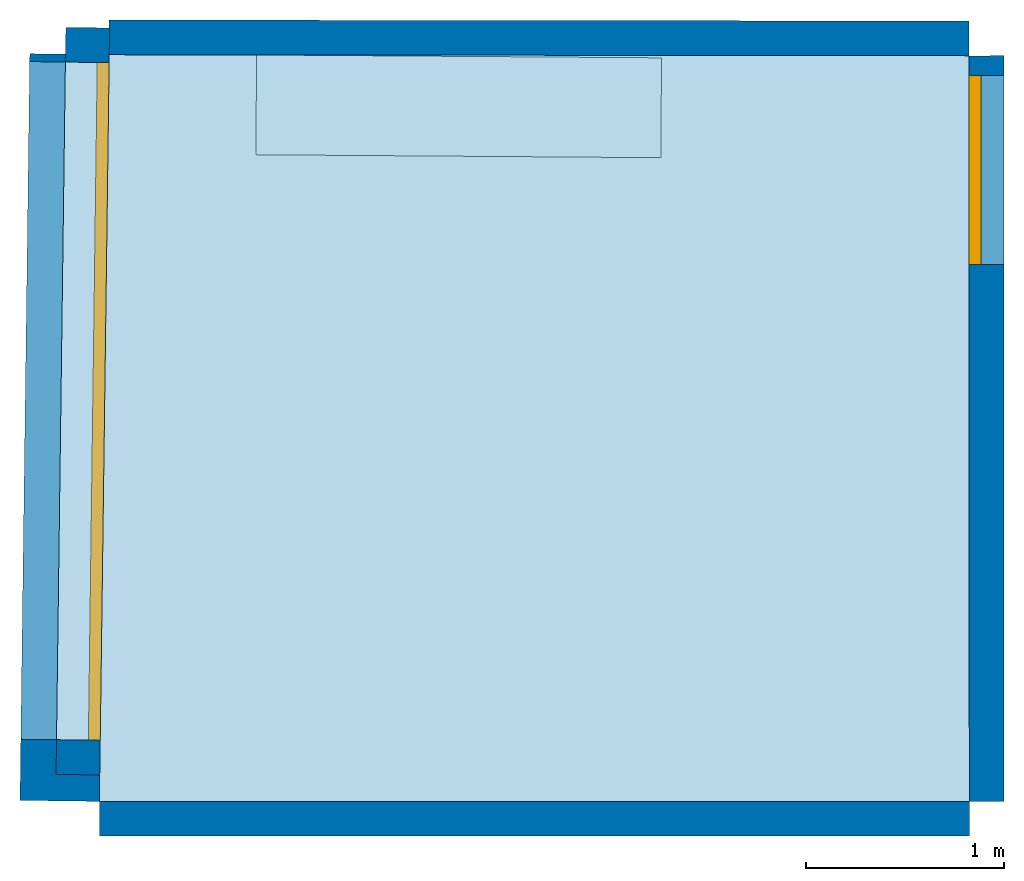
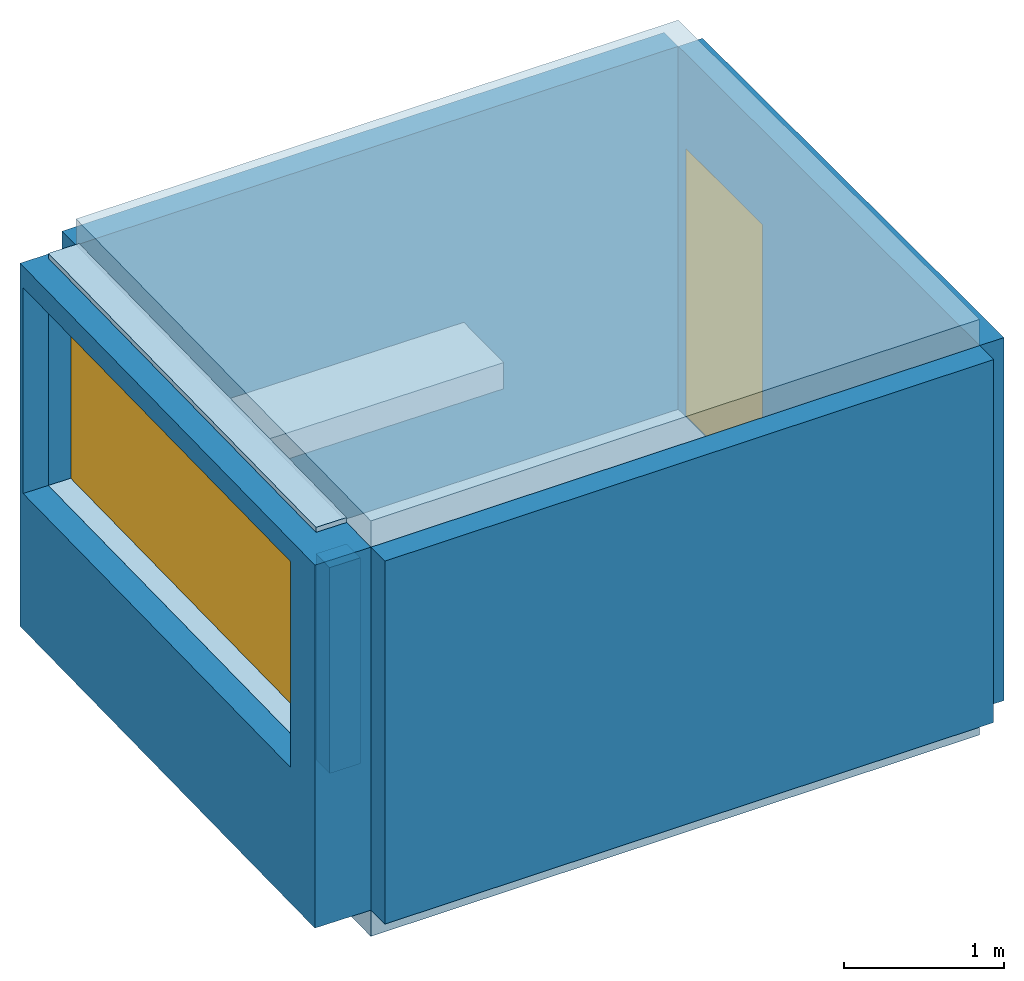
# One storey: 6 walls, 5 slabs, 1 door, 1 window, 2 openings.
"""IFC2X3 building model written with IfcOpenShell, lengths in metres."""

from ifc_helpers import new_model, si_unit, direction, frame, origin_with_axes, place, context, project, spatial, polyline, outline, extrude, element, fill, save


model = new_model("IFC2X3")

# Units and contexts
model_context = context("Model", 3, precision=1e-05, world=origin_with_axes(), true_north=direction((1.0, 0.0, 0.0)))
ifc_project = project(units=[si_unit("AREAUNIT", "SQUARE_METRE"), si_unit("LENGTHUNIT", "METRE"), si_unit("PLANEANGLEUNIT", "RADIAN"), si_unit("VOLUMEUNIT", "CUBIC_METRE")], contexts=[model_context])

# Building, storey
building_placement = place(None, origin_with_axes())
building = spatial("IfcBuilding", under=ifc_project, at=building_placement, Name="Gebäude", CompositionType="ELEMENT")
storey_placement = place(building_placement, origin_with_axes())
storey = spatial("IfcBuildingStorey", under=building, at=storey_placement, Name="600 EG", CompositionType="ELEMENT", Elevation=0.0)

# Slabs
slab_1_placement = place(storey_placement, frame((0.344035, -0.327682, -1.520767), z_axis=(0.0, 0.0, -1.0), x_axis=(-1.0, 0.0, 0.0)))
element("IfcSlab", 1, at=slab_1_placement, inside=storey, Name="Ground", PredefinedType="FLOOR", context=model_context, shape_type="SweptSolid", body=[
    extrude(outline(polyline([(-2.178482, 1.877274, 0.0), (-2.179407, -1.879852, 0.0), (2.203607, -1.879852, 0.0), (2.154282, 1.88243, 0.0), (-2.178482, 1.877274, 0.0)])), origin_with_axes(), (0.0, 0.0, 1.0), 0.2),
])
slab_2_placement = place(storey_placement, frame((0.344035, -0.327682, 1.241876), z_axis=(0.0, 0.0, 1.0), x_axis=(1.0, 0.0, 0.0)))
element("IfcSlab", 2, at=slab_2_placement, inside=storey, Name="Ceiling", PredefinedType="FLOOR", context=model_context, shape_type="SweptSolid", body=[
    extrude(outline(polyline([(2.178483, 1.877274, 0.0), (2.179407, -1.879852, 0.0), (-2.203607, -1.879853, 0.0), (-2.154282, 1.882431, 0.0), (2.178483, 1.877274, 0.0)])), origin_with_axes(), (0.0, 0.0, 1.0), 0.2),
])
slab_3_placement = place(storey_placement, frame((-1.943198, -0.190837, -0.487099), z_axis=(0.0, 0.0, -1.0), x_axis=(-1.0, 0.0, 0.0)))
element("IfcSlab", 3, at=slab_3_placement, inside=storey, Name="Ground", PredefinedType="FLOOR", context=model_context, shape_type="SweptSolid", body=[
    extrude(outline(polyline([(-0.087665, -1.708583, 0.0), (-0.132427, 1.705697, 0.0), (0.087665, 1.708583, 0.0), (0.132427, -1.705697, 0.0), (-0.087665, -1.708583, 0.0)])), origin_with_axes(), (0.0, 0.0, 1.0), 0.2),
])
slab_4_placement = place(storey_placement, frame((-1.943197, -0.190837, 1.079748), z_axis=(0.0, 0.0, 1.0), x_axis=(1.0, 0.0, 0.0)))
element("IfcSlab", 4, at=slab_4_placement, inside=storey, Name="Ceiling", PredefinedType="FLOOR", context=model_context, shape_type="SweptSolid", body=[
    extrude(outline(polyline([(0.132427, 1.705697, 0.0), (-0.087664, 1.708582, 0.0), (-0.132427, -1.705697, 0.0), (0.087665, -1.708582, 0.0), (0.132427, 1.705697, 0.0)])), origin_with_axes(), (0.0, 0.0, 1.0), 0.2),
])
slab_5_placement = place(storey_placement, frame((-0.049152, 1.294939, -0.509885), z_axis=(0.0, 0.0, 1.0), x_axis=(1.0, 0.0, 0.0)))
element("IfcSlab", 5, at=slab_5_placement, inside=storey, Name="Ceiling", PredefinedType="FLOOR", context=model_context, shape_type="SweptSolid", body=[
    extrude(outline(polyline([(-1.018329, 0.258924, 0.0), (-1.021982, -0.244109, 0.0), (1.018329, -0.258924, 0.0), (1.021982, 0.244109, 0.0), (-1.018329, 0.258924, 0.0)])), origin_with_axes(), (0.0, 0.0, 1.0), 0.2),
])

# Wall, opening, door
wall_1_placement = place(storey_placement, frame((2.522979, -0.328971, -0.139445), z_axis=(1.0, 0.000246, 0.0), x_axis=(0.000246, -1.0, 0.0)))
wall_1 = element("IfcWallStandardCase", 6, at=wall_1_placement, inside=storey, Name="Wall", context=model_context, shape_type="SweptSolid", body=[
    extrude(outline(polyline([(-1.878563, -1.381321, 0.0), (-1.878563, 1.381321, 0.0), (1.878563, 1.381321, 0.0), (1.878563, -1.381321, 0.0), (-1.878563, -1.381321, 0.0)])), origin_with_axes(), (0.0, 0.0, 1.0), 0.175),
])
opening_1_placement = place(storey_placement, frame((2.522158, 0.974188, -0.494581), z_axis=(1.0, 0.000246, 0.0), x_axis=(0.000246, -1.0, 0.0)))
opening_1 = element("IfcOpeningElement", 7, at=opening_1_placement, inside=storey, cuts=wall_1, Name="Opening", ObjectType="Opening", context=model_context, shape_type="SweptSolid", body=[
    extrude(outline(polyline([(-0.475297, 1.016163, 0.0), (0.475297, 1.016163, 1e-06), (0.475297, -1.016163, 0.0), (-0.475297, -1.016163, 0.0), (-0.475297, 1.016163, 0.0)])), origin_with_axes(), (0.0, 0.0, 1.0), 0.375),
])
door_placement = place(storey_placement, frame((2.522158, 0.974188, -0.494581), z_axis=(1.0, 0.000246, 0.0), x_axis=(0.000246, -1.0, 0.0)))
door = element("IfcDoor", 8, at=door_placement, inside=storey, Name="Door", OverallHeight=2.032326, OverallWidth=0.950595, context=model_context, shape_type="SweptSolid", body=[
    extrude(outline(polyline([(-0.475297, 1.016163, 0.0), (0.475297, 1.016163, 1e-06), (0.475297, -1.016163, 0.0), (-0.475297, -1.016163, 0.0), (-0.475297, 1.016163, 0.0)])), origin_with_axes(), (0.0, 0.0, 1.0), 0.06),
])
fill(opening_1, door)

# Wall
wall_2_placement = place(storey_placement, frame((0.331935, -2.207534, -0.139445), z_axis=(0.0, -1.0, 0.0), x_axis=(-1.0, 0.0, 0.0)))
element("IfcWallStandardCase", 9, at=wall_2_placement, inside=storey, Name="Wall", context=model_context, shape_type="SweptSolid", body=[
    extrude(outline(polyline([(-2.191507, -1.381321, 0.0), (-2.191507, 1.381321, 0.0), (2.191507, 1.381321, 0.0), (2.191507, -1.381321, 0.0), (-2.191507, -1.381321, 0.0)])), origin_with_axes(), (0.0, 0.0, 1.0), 0.175),
])

# Wall, opening, window
wall_3_placement = place(storey_placement, frame((-1.83491, -0.326393, -0.139445), z_axis=(-0.999914, 0.013109, 0.0), x_axis=(0.013109, 0.999914, 0.0)))
wall_3 = element("IfcWallStandardCase", 10, at=wall_3_placement, inside=storey, Name="Wall", context=model_context, shape_type="SweptSolid", body=[
    extrude(outline(polyline([(-1.881303, -1.381321, 0.0), (-1.881303, 1.381321, 0.0), (1.881303, 1.381321, 0.0), (1.881303, -1.381321, 0.0), (-1.881303, -1.381321, 0.0)])), origin_with_axes(), (0.0, 0.0, 1.0), 0.4),
])
opening_2_placement = place(storey_placement, frame((-1.832652, -0.192287, 0.296325), z_axis=(-0.999914, 0.013109, 0.0), x_axis=(0.013109, 0.999914, 0.0)))
opening_2 = element("IfcOpeningElement", 11, at=opening_2_placement, inside=storey, cuts=wall_3, Name="Opening", ObjectType="Opening", context=model_context, shape_type="SweptSolid", body=[
    extrude(outline(polyline([(-1.707287, -0.783424, 0.0), (1.707287, -0.783424, 0.0), (1.707287, 0.783424, 0.0), (-1.707287, 0.783424, 0.0), (-1.707287, -0.783424, 0.0)])), origin_with_axes(), (0.0, 0.0, 1.0), 0.6),
])
window_placement = place(storey_placement, frame((-1.832652, -0.192287, 0.296325), z_axis=(-0.999914, 0.013109, 0.0), x_axis=(0.013109, 0.999914, 0.0)))
window = element("IfcWindow", 12, at=window_placement, inside=storey, Name="Window", OverallHeight=1.566847, OverallWidth=3.414573, context=model_context, shape_type="SweptSolid", body=[
    extrude(outline(polyline([(-1.707287, -0.783424, 0.0), (1.707287, -0.783424, 0.0), (1.707287, 0.783424, 0.0), (-1.707287, 0.783424, 0.0), (-1.707287, -0.783424, 0.0)])), origin_with_axes(), (0.0, 0.0, 1.0), 0.06),
])
fill(opening_2, window)

# Walls
wall_4_placement = place(storey_placement, frame((0.356135, 1.55217, -0.139445), z_axis=(0.00119, 1.0, 0.0), x_axis=(1.0, -0.00119, 0.0)))
element("IfcWallStandardCase", 13, at=wall_4_placement, inside=storey, Name="Wall", context=model_context, shape_type="SweptSolid", body=[
    extrude(outline(polyline([(-2.166384, -1.381321, 0.0), (-2.166384, 1.381321, 0.0), (2.166384, 1.381321, 0.0), (2.166384, -1.381321, 0.0), (-2.166384, -1.381321, 0.0)])), origin_with_axes(), (0.0, 0.0, 1.0), 0.175),
])
for number, where, z_axis, x_axis, name in (
    (14, (-1.920816, 1.516303, 0.296325), (0.013106, 0.999914, 0.0), (0.999914, -0.013106, 0.0), "Wall"),
    (15, (-1.965579, -1.897977, 0.296325), (-0.013108, -0.999914, 0.0), (-0.999914, 0.013108, 0.0), "Wall"),
):
    element("IfcWallStandardCase", number, at=place(storey_placement, frame(where, z_axis=z_axis, x_axis=x_axis)), inside=storey, Name=name, context=model_context, shape_type="SweptSolid", body=[
        extrude(outline(polyline([(0.110055, 0.783423, 0.0), (-0.110055, 0.783423, 0.0), (-0.110055, -0.783423, 0.0), (0.110055, -0.783423, 0.0), (0.110055, 0.783423, 0.0)])), origin_with_axes(), (0.0, 0.0, 1.0), 0.175),
    ])

save(model, "model.ifc")
